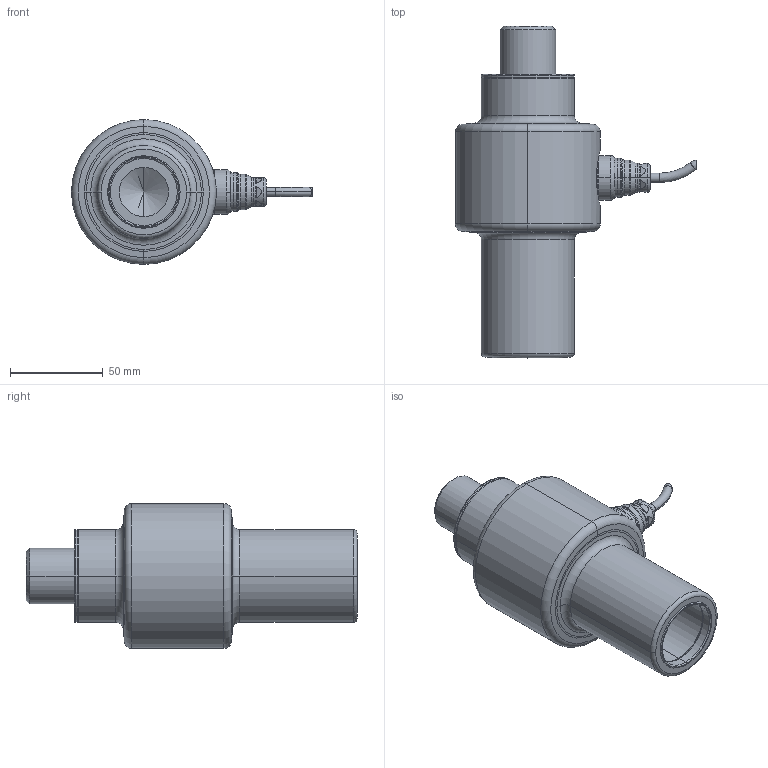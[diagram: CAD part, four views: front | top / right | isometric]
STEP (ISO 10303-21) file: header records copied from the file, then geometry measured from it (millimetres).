
FILE_DESCRIPTION((''),'1');
FILE_NAME('LFLA_3A_M30_10000_kg.step','2024-07-02T08:31:46',(''),(''),'','','');
FILE_SCHEMA(('AUTOMOTIVE_DESIGN { 1 0 10303 214 1 1 1 1 }'));
Length unit declared in the file: metre
Products named in the file (10): LFLA part 01; LFLA body 01; LFLA cable 01; LFLA cable gland 01; LFLA cable gland 02; LFLA part 03; LFLA connector 01; LFLA O-ring 01; LFLA O-ring 02; LFLA 3A_M30_10000_kg
Assembly tree (9 placements, depth 3):
  LFLA 3A_M30_10000_kg
    LFLA part 01
      LFLA body 01
      LFLA cable 01
      LFLA cable gland 01
      LFLA cable gland 02
      LFLA part 03
      LFLA connector 01
      LFLA O-ring 01
      LFLA O-ring 02
Bounding box: 129.85 x 178.75 x 78 mm (x, y, z)
Volume: 447679.4 mm3; surface area: 80156.6 mm2
Topology: 8 solids, 8 shells, 176 faces, 346 edges, 201 vertices
Faces by surface type: cylinder 72, torus 54, plane 32, cone 18
Entity records: 5187 total; most frequent: CARTESIAN_POINT 1098, DIRECTION 952, ORIENTED_EDGE 688, AXIS2_PLACEMENT_3D 431, EDGE_CURVE 344, CIRCLE 238, EDGE_LOOP 205, VERTEX_POINT 201
